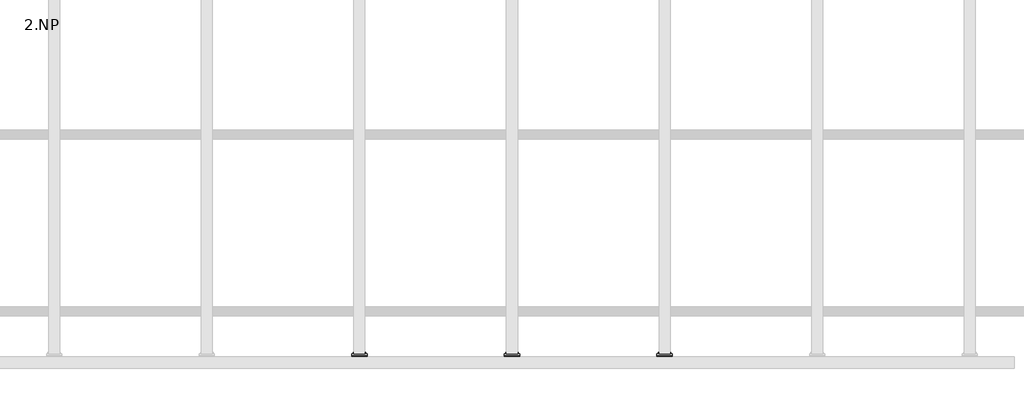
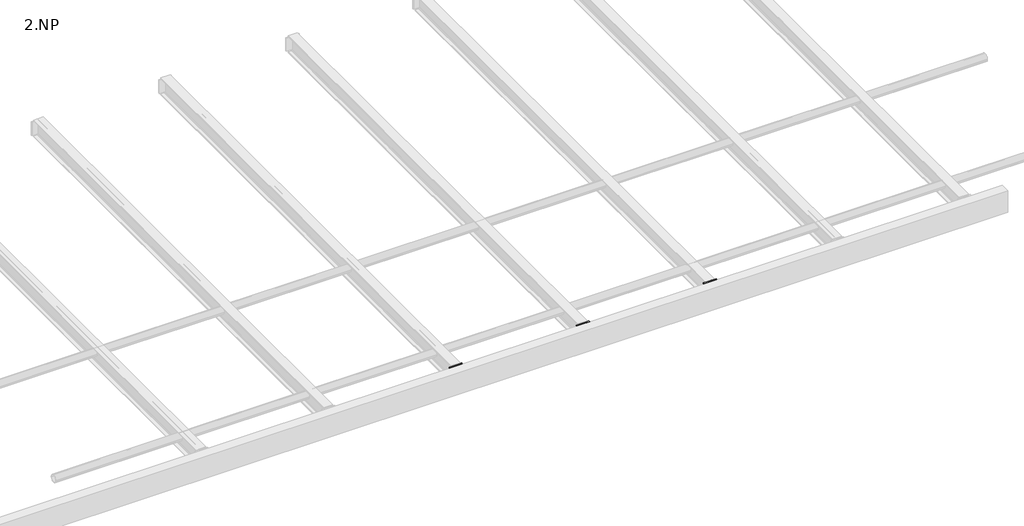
# One storey, part 4 of 18: 12 proxies.
"""IFC4 building model written with IfcOpenShell, lengths in millimetres."""

import ifcopenshell
import ifcopenshell.guid

model = None  # the IFC model being written
_history = None  # IfcOwnerHistory: only IFC2X3 demands one
_inside = {}  # id of a spatial element -> (the spatial element, [elements in it])
_under = {}  # id of a project, library or spatial element -> (it, [spatial elements below it])
_declared = {}  # id of a project -> (the project, [libraries it declares])
_typed = {}  # id of a type object -> (the type object, [elements of that type])
_made_of = {}  # id of a material, layer set ... -> (it, [elements and type objects made of it])


def new_model(schema):
    """Start an empty IFC model of exactly this schema.

    Asked for "IFC4X3", IfcOpenShell would pick the latest addendum, in which some entities
    have other attributes; the version numbers below select the first issue.
    IFC2X3 requires an IfcOwnerHistory on every rooted entity: one is made here for all.
    """
    global model, _history
    if schema == "IFC4X3":
        model = ifcopenshell.file(schema_version=(4, 3, 0, 0))
    else:
        model = ifcopenshell.file(schema=schema)
    _inside.clear()
    _under.clear()
    _declared.clear()
    _typed.clear()
    _made_of.clear()
    _history = None
    if model.schema == "IFC2X3":
        org = make("IfcOrganization", Name="unknown")
        user = make(
            "IfcPersonAndOrganization",
            ThePerson=make("IfcPerson", FamilyName="unknown"),
            TheOrganization=org,
        )
        app = make(
            "IfcApplication",
            ApplicationDeveloper=org,
            Version="unknown",
            ApplicationFullName="unknown",
            ApplicationIdentifier="unknown",
        )
        _history = make(
            "IfcOwnerHistory",
            OwningUser=user,
            OwningApplication=app,
            ChangeAction="ADDED",
            CreationDate=0,
        )
    return model


def make(cls, **values):
    """One entity of the class cls with the attributes given. An attribute that is None is left unset."""
    return model.create_entity(
        cls, **{name: value for name, value in values.items() if value is not None}
    )


def rooted(cls, **values):
    """An entity with a GlobalId (a new one), such as an element, a storey or a relation."""
    return make(cls, GlobalId=ifcopenshell.guid.new(), OwnerHistory=_history, **values)


def si_unit(unit_type, name, prefix=None):
    """IfcSIUnit, for example si_unit("LENGTHUNIT", "METRE", prefix="MILLI")."""
    return make("IfcSIUnit", UnitType=unit_type, Prefix=prefix, Name=name)


def assignment(units):
    """IfcUnitAssignment: the units of a project."""
    return None if units is None else make("IfcUnitAssignment", Units=units)


def point(xyz):
    """IfcCartesianPoint."""
    return None if xyz is None else make("IfcCartesianPoint", Coordinates=xyz)


def direction(xyz):
    """IfcDirection."""
    return None if xyz is None else make("IfcDirection", DirectionRatios=xyz)


def frame(location, z_axis=None, x_axis=None):
    """IfcAxis2Placement3D, a coordinate frame: its origin and axes. An axis left out is left unset."""
    return make(
        "IfcAxis2Placement3D",
        Location=point(location),
        Axis=direction(z_axis),
        RefDirection=direction(x_axis),
    )


def frame_2d(location, x_axis=None):
    """IfcAxis2Placement2D, a coordinate frame in the plane: its origin and x axis."""
    return make(
        "IfcAxis2Placement2D", Location=point(location), RefDirection=direction(x_axis)
    )


def origin():
    """The frame at (0, 0, 0) with its axes left unset."""
    return frame((0.0, 0.0, 0.0))


def place(relative_to, where):
    """IfcLocalPlacement: puts the frame where relative to a parent placement (None: the world)."""
    return make(
        "IfcLocalPlacement", PlacementRelTo=relative_to, RelativePlacement=where
    )


def context(
    kind, dimensions, precision=None, world=None, true_north=None, identifier=None
):
    """IfcGeometricRepresentationContext, for example the 3D "Model" context."""
    return make(
        "IfcGeometricRepresentationContext",
        ContextIdentifier=identifier,
        ContextType=kind,
        CoordinateSpaceDimension=dimensions,
        Precision=precision,
        WorldCoordinateSystem=world,
        TrueNorth=true_north,
    )


def project(units=None, contexts=None):
    """IfcProject with its units and contexts."""
    return rooted(
        "IfcProject",
        Name="project",
        RepresentationContexts=contexts,
        UnitsInContext=assignment(units),
    )


def spatial(cls, under=None, at=None, **own):
    """A site, building, storey or space (cls), placed at a placement, below another one or the project."""
    s = rooted(cls, ObjectPlacement=at, **own)
    if under is not None:
        _under.setdefault(under.id(), (under, []))[1].append(s)
    return s


def polyline(points):
    """IfcPolyline through the points."""
    return make("IfcPolyline", Points=[point(p) for p in points])


def circle_curve(where, radius):
    """IfcCircle in the frame where."""
    return make("IfcCircle", Position=where, Radius=radius)


def trimmed(basis, trim1, trim2, sense, master):
    """IfcTrimmedCurve: the piece of a basis curve between two trims."""
    return make(
        "IfcTrimmedCurve",
        BasisCurve=basis,
        Trim1=trim1,
        Trim2=trim2,
        SenseAgreement=sense,
        MasterRepresentation=master,
    )


def segment(curve, same_sense, transition):
    """IfcCompositeCurveSegment."""
    return make(
        "IfcCompositeCurveSegment",
        Transition=transition,
        SameSense=same_sense,
        ParentCurve=curve,
    )


def composite_curve(segments, self_intersect=None):
    """IfcCompositeCurve: segments joined end to end."""
    return make("IfcCompositeCurve", Segments=segments, SelfIntersect=self_intersect)


def outline(outer, holes=None, kind="AREA"):
    """IfcArbitraryClosedProfileDef: a profile drawn as a closed curve; with holes, ...WithVoids."""
    if holes is None:
        return make("IfcArbitraryClosedProfileDef", ProfileType=kind, OuterCurve=outer)
    return make(
        "IfcArbitraryProfileDefWithVoids",
        ProfileType=kind,
        OuterCurve=outer,
        InnerCurves=holes,
    )


def extrude(swept, where, along, depth):
    """IfcExtrudedAreaSolid: the profile swept, set in the frame where, extruded along a direction by depth."""
    return make(
        "IfcExtrudedAreaSolid",
        SweptArea=swept,
        Position=where,
        ExtrudedDirection=direction(along),
        Depth=depth,
    )


def shape(context_of_items, identifier, shape_type, items):
    """IfcShapeRepresentation: the items that make up one representation, for example the "Body"."""
    return make(
        "IfcShapeRepresentation",
        ContextOfItems=context_of_items,
        RepresentationIdentifier=identifier,
        RepresentationType=shape_type,
        Items=items,
    )


def made_of(thing, what):
    """Note that an element or type object is made of a material, layer set ...; save() writes the relation."""
    if what is not None:
        _made_of.setdefault(what.id(), (what, []))[1].append(thing)
    return thing


def element(
    cls,
    number,
    at=None,
    inside=None,
    cuts=None,
    type_object=None,
    material=None,
    context=None,
    identifier="Body",
    shape_type=None,
    held_by="IfcProductDefinitionShape",
    body=None,
    shapes=None,
    **own,
):
    """One element of the class cls, such as IfcWall. Its Tag is "e" and its number.

    at: its placement. inside: the storey or other place that contains it. cuts: it is an
    opening in that element (IfcRelVoidsElement). A single representation is given by context,
    identifier, shape_type and body (its items); several are given by shapes. held_by: the class
    of the entity that holds the representations. save() writes the other relations.
    """
    e = rooted(cls, Tag="e%d" % number, ObjectPlacement=at, **own)
    if body is not None:
        shapes = [shape(context, identifier, shape_type, body)]
    if shapes is not None:
        e.Representation = make(held_by, Representations=shapes)
    if inside is not None:
        _inside.setdefault(inside.id(), (inside, []))[1].append(e)
    if cuts is not None:
        rooted(
            "IfcRelVoidsElement", RelatingBuildingElement=cuts, RelatedOpeningElement=e
        )
    if type_object is not None:
        _typed.setdefault(type_object.id(), (type_object, []))[1].append(e)
    return made_of(e, material)


def aggregate(whole, parts):
    """IfcRelAggregates: a whole, such as a stair, and the parts it consists of."""
    return rooted("IfcRelAggregates", RelatingObject=whole, RelatedObjects=parts)


def save(model, path):
    """Write the relations noted so far, then the file.

    IfcRelAggregates (storeys below a building ...), IfcRelContainedInSpatialStructure (elements
    in a storey), IfcRelDefinesByType, IfcRelAssociatesMaterial and IfcRelDeclares: one each for
    every whole, place, type object, material and project.
    """
    for whole, parts in _under.values():
        aggregate(whole, parts)
    for where, things in _inside.values():
        rooted(
            "IfcRelContainedInSpatialStructure",
            RelatedElements=things,
            RelatingStructure=where,
        )
    for kind, things in _typed.values():
        rooted("IfcRelDefinesByType", RelatedObjects=things, RelatingType=kind)
    for what, things in _made_of.values():
        rooted("IfcRelAssociatesMaterial", RelatedObjects=things, RelatingMaterial=what)
    for by, libraries in _declared.values():
        rooted("IfcRelDeclares", RelatingContext=by, RelatedDefinitions=libraries)
    model.write(path)


model = new_model("IFC4")

# Units and contexts
model_context = context("Model", 3, world=origin())
ifc_project = project(units=[si_unit("LENGTHUNIT", "METRE", prefix="MILLI")], contexts=[model_context])

# Site, building, storey
site = spatial("IfcSite", under=ifc_project)
building = spatial("IfcBuilding", under=site)
storey = spatial("IfcBuildingStorey", under=building, Name="2.NP", Elevation=3000.0)

# Proxies
placement = place(None, origin())
element("IfcBuildingElementProxy", 1, Name="PLECH", ObjectType="PLECH", at=placement, inside=storey, context=model_context, shape_type="SweptSolid", body=[
    extrude(outline(polyline([(4000.0, -180.0), (4100.0, -180.0), (4100.0, -190.0), (4000.0, -190.0), (4000.0, -180.0)])), frame((0.0, 0.0, 3166.5), z_axis=(0.0, 0.0, 1.0), x_axis=(1.0, 0.0, 0.0)), (0.0, 0.0, 1.0), 127.0),
])
element("IfcBuildingElementProxy", 2, Name="PLECH", ObjectType="PLECH", at=placement, inside=storey, context=model_context, shape_type="SweptSolid", body=[
    extrude(outline(polyline([(5000.0, -180.0), (5100.0, -180.0), (5100.0, -190.0), (5000.0, -190.0), (5000.0, -180.0)])), frame((0.0, 0.0, 3166.5), z_axis=(0.0, 0.0, 1.0), x_axis=(1.0, 0.0, 0.0)), (0.0, 0.0, 1.0), 127.0),
])
element("IfcBuildingElementProxy", 3, Name="PLECH", ObjectType="PLECH", at=placement, inside=storey, context=model_context, shape_type="SweptSolid", body=[
    extrude(outline(polyline([(6000.0, -180.0), (6100.0, -180.0), (6100.0, -190.0), (6000.0, -190.0), (6000.0, -180.0)])), frame((0.0, 0.0, 3166.5), z_axis=(0.0, 0.0, 1.0), x_axis=(1.0, 0.0, 0.0)), (0.0, 0.0, 1.0), 127.0),
])
element("IfcBuildingElementProxy", 4, Name="PLECH", ObjectType="PLECH", at=placement, inside=storey, context=model_context, shape_type="SweptSolid", body=[
    extrude(outline(polyline([(4000.0, -190.0), (4100.0, -190.0), (4100.0, -200.0), (4000.0, -200.0), (4000.0, -190.0)])), frame((0.0, 0.0, 3127.5), z_axis=(0.0, 0.0, 1.0), x_axis=(1.0, 0.0, 0.0)), (0.0, 0.0, 1.0), 166.0000153),
])
element("IfcBuildingElementProxy", 5, Name="PLECH", ObjectType="PLECH", at=placement, inside=storey, context=model_context, shape_type="SweptSolid", body=[
    extrude(outline(composite_curve([segment(polyline([(-200.0, 3289.5), (-200.0, 3130.5), (-249.5, 3130.5)]), True, "CONTINUOUS"), segment(trimmed(circle_curve(frame_2d((-269.5, 3130.5)), 20.0), [point((-249.5, 3130.5))], [point((-269.5, 3150.5))], True, "CARTESIAN"), True, "CONTINUOUS"), segment(polyline([(-269.5, 3150.5), (-269.5, 3269.5)]), True, "CONTINUOUS"), segment(trimmed(circle_curve(frame_2d((-269.5, 3289.5)), 20.0), [point((-269.5, 3269.5))], [point((-249.5, 3289.5))], True, "CARTESIAN"), True, "CONTINUOUS"), segment(polyline([(-249.5, 3289.5), (-200.0, 3289.5)]), True, "CONTINUOUS")], self_intersect=False)), frame((4046.0, 0.0, 0.0), z_axis=(1.0, 0.0, 0.0), x_axis=(0.0, 1.0, 0.0)), (0.0, 0.0, 1.0), 8.0),
])
element("IfcBuildingElementProxy", 6, Name="PLECH", ObjectType="PLECH", at=placement, inside=storey, context=model_context, shape_type="SweptSolid", body=[
    extrude(outline(polyline([(5000.0, -190.0), (5100.0, -190.0), (5100.0, -200.0), (5000.0, -200.0), (5000.0, -190.0)])), frame((0.0, 0.0, 3127.5), z_axis=(0.0, 0.0, 1.0), x_axis=(1.0, 0.0, 0.0)), (0.0, 0.0, 1.0), 166.0000153),
])
element("IfcBuildingElementProxy", 7, Name="PLECH", ObjectType="PLECH", at=placement, inside=storey, context=model_context, shape_type="SweptSolid", body=[
    extrude(outline(composite_curve([segment(polyline([(-200.0, 3289.5), (-200.0, 3130.5), (-249.5, 3130.5)]), True, "CONTINUOUS"), segment(trimmed(circle_curve(frame_2d((-269.5, 3130.5)), 20.0), [point((-249.5, 3130.5))], [point((-269.5, 3150.5))], True, "CARTESIAN"), True, "CONTINUOUS"), segment(polyline([(-269.5, 3150.5), (-269.5, 3269.5)]), True, "CONTINUOUS"), segment(trimmed(circle_curve(frame_2d((-269.5, 3289.5)), 20.0), [point((-269.5, 3269.5))], [point((-249.5, 3289.5))], True, "CARTESIAN"), True, "CONTINUOUS"), segment(polyline([(-249.5, 3289.5), (-200.0, 3289.5)]), True, "CONTINUOUS")], self_intersect=False)), frame((5046.0, 0.0, 0.0), z_axis=(1.0, 0.0, 0.0), x_axis=(0.0, 1.0, 0.0)), (0.0, 0.0, 1.0), 8.0),
])
element("IfcBuildingElementProxy", 8, Name="PLECH", ObjectType="PLECH", at=placement, inside=storey, context=model_context, shape_type="SweptSolid", body=[
    extrude(outline(polyline([(6000.0, -190.0), (6100.0, -190.0), (6100.0, -200.0), (6000.0, -200.0), (6000.0, -190.0)])), frame((0.0, 0.0, 3127.5), z_axis=(0.0, 0.0, 1.0), x_axis=(1.0, 0.0, 0.0)), (0.0, 0.0, 1.0), 166.0000153),
])
element("IfcBuildingElementProxy", 9, Name="PLECH", ObjectType="PLECH", at=placement, inside=storey, context=model_context, shape_type="SweptSolid", body=[
    extrude(outline(composite_curve([segment(polyline([(-200.0, 3289.5), (-200.0, 3130.5), (-249.5, 3130.5)]), True, "CONTINUOUS"), segment(trimmed(circle_curve(frame_2d((-269.5, 3130.5)), 20.0), [point((-249.5, 3130.5))], [point((-269.5, 3150.5))], True, "CARTESIAN"), True, "CONTINUOUS"), segment(polyline([(-269.5, 3150.5), (-269.5, 3269.5)]), True, "CONTINUOUS"), segment(trimmed(circle_curve(frame_2d((-269.5, 3289.5)), 20.0), [point((-269.5, 3269.5))], [point((-249.5, 3289.5))], True, "CARTESIAN"), True, "CONTINUOUS"), segment(polyline([(-249.5, 3289.5), (-200.0, 3289.5)]), True, "CONTINUOUS")], self_intersect=False)), frame((6046.0, 0.0, 0.0), z_axis=(1.0, 0.0, 0.0), x_axis=(0.0, 1.0, 0.0)), (0.0, 0.0, 1.0), 8.0),
])
element("IfcBuildingElementProxy", 10, Name="Bolt assembly", ObjectType="Bolt assembly", at=placement, inside=storey, context=model_context, shape_type="SweptSolid", body=[
    extrude(outline(composite_curve([segment(trimmed(circle_curve(frame_2d((3260.0, 4020.0)), 6.5), [point((3260.0, 4026.5))], [point((3260.0, 4013.5))], False, "CARTESIAN"), True, "CONTINUOUS"), segment(trimmed(circle_curve(frame_2d((3260.0, 4020.0)), 6.5), [point((3260.0, 4013.5))], [point((3260.0, 4026.5))], False, "CARTESIAN"), True, "CONTINUOUS")], self_intersect=False)), frame((0.0, -199.9, 0.0), z_axis=(0.0, 1.0, 0.0), x_axis=(0.0, 0.0, 1.0)), (0.0, 0.0, 1.0), 10.0),
    extrude(outline(polyline([(3260.0, 4030.9696551), (3269.5, 4025.4848276), (3269.5, 4014.5151724), (3260.0, 4009.0303449), (3250.5, 4014.5151724), (3250.5, 4025.4848276), (3260.0, 4030.9696551)])), frame((0.0, -210.0, 0.0), z_axis=(0.0, 1.0, 0.0), x_axis=(0.0, 0.0, 1.0)), (0.0, 0.0, 1.0), 7.5),
    extrude(outline(composite_curve([segment(trimmed(circle_curve(frame_2d((3260.0, 4020.0)), 6.0), [point((3260.0, 4026.0))], [point((3260.0, 4014.0))], False, "CARTESIAN"), True, "CONTINUOUS"), segment(trimmed(circle_curve(frame_2d((3260.0, 4020.0)), 6.0), [point((3260.0, 4014.0))], [point((3260.0, 4026.0))], False, "CARTESIAN"), True, "CONTINUOUS")], self_intersect=False)), frame((0.0, -202.5, 0.0), z_axis=(0.0, 1.0, 0.0), x_axis=(0.0, 0.0, 1.0)), (0.0, 0.0, 1.0), 40.0),
    extrude(outline(composite_curve([segment(trimmed(circle_curve(frame_2d((3260.0, 4020.0)), 12.0), [point((3260.0, 4032.0))], [point((3260.0, 4008.0))], False, "CARTESIAN"), True, "CONTINUOUS"), segment(trimmed(circle_curve(frame_2d((3260.0, 4020.0)), 12.0), [point((3260.0, 4008.0))], [point((3260.0, 4032.0))], False, "CARTESIAN"), True, "CONTINUOUS")], self_intersect=False)), frame((0.0, -202.5, 0.0), z_axis=(0.0, 1.0, 0.0), x_axis=(0.0, 0.0, 1.0)), (0.0, 0.0, 1.0), 2.5),
    extrude(outline(composite_curve([segment(trimmed(circle_curve(frame_2d((3260.0, 4020.0)), 12.0), [point((3260.0, 4032.0))], [point((3260.0, 4008.0))], False, "CARTESIAN"), True, "CONTINUOUS"), segment(trimmed(circle_curve(frame_2d((3260.0, 4020.0)), 12.0), [point((3260.0, 4008.0))], [point((3260.0, 4032.0))], False, "CARTESIAN"), True, "CONTINUOUS")], self_intersect=False)), frame((0.0, -180.0, 0.0), z_axis=(0.0, 1.0, 0.0), x_axis=(0.0, 0.0, 1.0)), (0.0, 0.0, 1.0), 2.5),
    extrude(outline(polyline([(3260.0, 4030.9696551), (3269.5, 4025.4848276), (3269.5, 4014.5151724), (3260.0, 4009.0303449), (3250.5, 4014.5151724), (3250.5, 4025.4848276), (3260.0, 4030.9696551)])), frame((0.0, -177.5, 0.0), z_axis=(0.0, 1.0, 0.0), x_axis=(0.0, 0.0, 1.0)), (0.0, 0.0, 1.0), 10.0),
    extrude(outline(composite_curve([segment(trimmed(circle_curve(frame_2d((3260.0, 4020.0)), 6.5), [point((3260.0, 4026.5))], [point((3260.0, 4013.5))], False, "CARTESIAN"), True, "CONTINUOUS"), segment(trimmed(circle_curve(frame_2d((3260.0, 4020.0)), 6.5), [point((3260.0, 4013.5))], [point((3260.0, 4026.5))], False, "CARTESIAN"), True, "CONTINUOUS")], self_intersect=False)), frame((0.0, -190.1, 0.0), z_axis=(0.0, 1.0, 0.0), x_axis=(0.0, 0.0, 1.0)), (0.0, 0.0, 1.0), 10.1),
    extrude(outline(composite_curve([segment(trimmed(circle_curve(frame_2d((3260.0, 4080.0)), 6.5), [point((3260.0, 4086.5))], [point((3260.0, 4073.5))], False, "CARTESIAN"), True, "CONTINUOUS"), segment(trimmed(circle_curve(frame_2d((3260.0, 4080.0)), 6.5), [point((3260.0, 4073.5))], [point((3260.0, 4086.5))], False, "CARTESIAN"), True, "CONTINUOUS")], self_intersect=False)), frame((0.0, -199.9, 0.0), z_axis=(0.0, 1.0, 0.0), x_axis=(0.0, 0.0, 1.0)), (0.0, 0.0, 1.0), 10.0),
    extrude(outline(polyline([(3260.0, 4090.9696551), (3269.5, 4085.4848276), (3269.5, 4074.5151724), (3260.0, 4069.0303449), (3250.5, 4074.5151724), (3250.5, 4085.4848276), (3260.0, 4090.9696551)])), frame((0.0, -210.0, 0.0), z_axis=(0.0, 1.0, 0.0), x_axis=(0.0, 0.0, 1.0)), (0.0, 0.0, 1.0), 7.5),
    extrude(outline(composite_curve([segment(trimmed(circle_curve(frame_2d((3260.0, 4080.0)), 6.0), [point((3260.0, 4086.0))], [point((3260.0, 4074.0))], False, "CARTESIAN"), True, "CONTINUOUS"), segment(trimmed(circle_curve(frame_2d((3260.0, 4080.0)), 6.0), [point((3260.0, 4074.0))], [point((3260.0, 4086.0))], False, "CARTESIAN"), True, "CONTINUOUS")], self_intersect=False)), frame((0.0, -202.5, 0.0), z_axis=(0.0, 1.0, 0.0), x_axis=(0.0, 0.0, 1.0)), (0.0, 0.0, 1.0), 40.0),
    extrude(outline(composite_curve([segment(trimmed(circle_curve(frame_2d((3260.0, 4080.0)), 12.0), [point((3260.0, 4092.0))], [point((3260.0, 4068.0))], False, "CARTESIAN"), True, "CONTINUOUS"), segment(trimmed(circle_curve(frame_2d((3260.0, 4080.0)), 12.0), [point((3260.0, 4068.0))], [point((3260.0, 4092.0))], False, "CARTESIAN"), True, "CONTINUOUS")], self_intersect=False)), frame((0.0, -202.5, 0.0), z_axis=(0.0, 1.0, 0.0), x_axis=(0.0, 0.0, 1.0)), (0.0, 0.0, 1.0), 2.5),
    extrude(outline(composite_curve([segment(trimmed(circle_curve(frame_2d((3260.0, 4080.0)), 12.0), [point((3260.0, 4092.0))], [point((3260.0, 4068.0))], False, "CARTESIAN"), True, "CONTINUOUS"), segment(trimmed(circle_curve(frame_2d((3260.0, 4080.0)), 12.0), [point((3260.0, 4068.0))], [point((3260.0, 4092.0))], False, "CARTESIAN"), True, "CONTINUOUS")], self_intersect=False)), frame((0.0, -180.0, 0.0), z_axis=(0.0, 1.0, 0.0), x_axis=(0.0, 0.0, 1.0)), (0.0, 0.0, 1.0), 2.5),
    extrude(outline(polyline([(3260.0, 4090.9696551), (3269.5, 4085.4848276), (3269.5, 4074.5151724), (3260.0, 4069.0303449), (3250.5, 4074.5151724), (3250.5, 4085.4848276), (3260.0, 4090.9696551)])), frame((0.0, -177.5, 0.0), z_axis=(0.0, 1.0, 0.0), x_axis=(0.0, 0.0, 1.0)), (0.0, 0.0, 1.0), 10.0),
    extrude(outline(composite_curve([segment(trimmed(circle_curve(frame_2d((3260.0, 4080.0)), 6.5), [point((3260.0, 4086.5))], [point((3260.0, 4073.5))], False, "CARTESIAN"), True, "CONTINUOUS"), segment(trimmed(circle_curve(frame_2d((3260.0, 4080.0)), 6.5), [point((3260.0, 4073.5))], [point((3260.0, 4086.5))], False, "CARTESIAN"), True, "CONTINUOUS")], self_intersect=False)), frame((0.0, -190.1, 0.0), z_axis=(0.0, 1.0, 0.0), x_axis=(0.0, 0.0, 1.0)), (0.0, 0.0, 1.0), 10.1),
    extrude(outline(composite_curve([segment(trimmed(circle_curve(frame_2d((3200.0, 4020.0)), 6.5), [point((3200.0, 4026.5))], [point((3200.0, 4013.5))], False, "CARTESIAN"), True, "CONTINUOUS"), segment(trimmed(circle_curve(frame_2d((3200.0, 4020.0)), 6.5), [point((3200.0, 4013.5))], [point((3200.0, 4026.5))], False, "CARTESIAN"), True, "CONTINUOUS")], self_intersect=False)), frame((0.0, -199.9, 0.0), z_axis=(0.0, 1.0, 0.0), x_axis=(0.0, 0.0, 1.0)), (0.0, 0.0, 1.0), 10.0),
    extrude(outline(polyline([(3200.0, 4030.9696551), (3209.5, 4025.4848276), (3209.5, 4014.5151724), (3200.0, 4009.0303449), (3190.5, 4014.5151724), (3190.5, 4025.4848276), (3200.0, 4030.9696551)])), frame((0.0, -210.0, 0.0), z_axis=(0.0, 1.0, 0.0), x_axis=(0.0, 0.0, 1.0)), (0.0, 0.0, 1.0), 7.5),
    extrude(outline(composite_curve([segment(trimmed(circle_curve(frame_2d((3200.0, 4020.0)), 6.0), [point((3200.0, 4026.0))], [point((3200.0, 4014.0))], False, "CARTESIAN"), True, "CONTINUOUS"), segment(trimmed(circle_curve(frame_2d((3200.0, 4020.0)), 6.0), [point((3200.0, 4014.0))], [point((3200.0, 4026.0))], False, "CARTESIAN"), True, "CONTINUOUS")], self_intersect=False)), frame((0.0, -202.5, 0.0), z_axis=(0.0, 1.0, 0.0), x_axis=(0.0, 0.0, 1.0)), (0.0, 0.0, 1.0), 40.0),
    extrude(outline(composite_curve([segment(trimmed(circle_curve(frame_2d((3200.0, 4020.0)), 12.0), [point((3200.0, 4032.0))], [point((3200.0, 4008.0))], False, "CARTESIAN"), True, "CONTINUOUS"), segment(trimmed(circle_curve(frame_2d((3200.0, 4020.0)), 12.0), [point((3200.0, 4008.0))], [point((3200.0, 4032.0))], False, "CARTESIAN"), True, "CONTINUOUS")], self_intersect=False)), frame((0.0, -202.5, 0.0), z_axis=(0.0, 1.0, 0.0), x_axis=(0.0, 0.0, 1.0)), (0.0, 0.0, 1.0), 2.5),
    extrude(outline(composite_curve([segment(trimmed(circle_curve(frame_2d((3200.0, 4020.0)), 12.0), [point((3200.0, 4032.0))], [point((3200.0, 4008.0))], False, "CARTESIAN"), True, "CONTINUOUS"), segment(trimmed(circle_curve(frame_2d((3200.0, 4020.0)), 12.0), [point((3200.0, 4008.0))], [point((3200.0, 4032.0))], False, "CARTESIAN"), True, "CONTINUOUS")], self_intersect=False)), frame((0.0, -180.0, 0.0), z_axis=(0.0, 1.0, 0.0), x_axis=(0.0, 0.0, 1.0)), (0.0, 0.0, 1.0), 2.5),
    extrude(outline(polyline([(3200.0, 4030.9696551), (3209.5, 4025.4848276), (3209.5, 4014.5151724), (3200.0, 4009.0303449), (3190.5, 4014.5151724), (3190.5, 4025.4848276), (3200.0, 4030.9696551)])), frame((0.0, -177.5, 0.0), z_axis=(0.0, 1.0, 0.0), x_axis=(0.0, 0.0, 1.0)), (0.0, 0.0, 1.0), 10.0),
    extrude(outline(composite_curve([segment(trimmed(circle_curve(frame_2d((3200.0, 4020.0)), 6.5), [point((3200.0, 4026.5))], [point((3200.0, 4013.5))], False, "CARTESIAN"), True, "CONTINUOUS"), segment(trimmed(circle_curve(frame_2d((3200.0, 4020.0)), 6.5), [point((3200.0, 4013.5))], [point((3200.0, 4026.5))], False, "CARTESIAN"), True, "CONTINUOUS")], self_intersect=False)), frame((0.0, -190.1, 0.0), z_axis=(0.0, 1.0, 0.0), x_axis=(0.0, 0.0, 1.0)), (0.0, 0.0, 1.0), 10.1),
    extrude(outline(composite_curve([segment(trimmed(circle_curve(frame_2d((3200.0, 4080.0)), 6.5), [point((3200.0, 4086.5))], [point((3200.0, 4073.5))], False, "CARTESIAN"), True, "CONTINUOUS"), segment(trimmed(circle_curve(frame_2d((3200.0, 4080.0)), 6.5), [point((3200.0, 4073.5))], [point((3200.0, 4086.5))], False, "CARTESIAN"), True, "CONTINUOUS")], self_intersect=False)), frame((0.0, -199.9, 0.0), z_axis=(0.0, 1.0, 0.0), x_axis=(0.0, 0.0, 1.0)), (0.0, 0.0, 1.0), 10.0),
    extrude(outline(polyline([(3200.0, 4090.9696551), (3209.5, 4085.4848276), (3209.5, 4074.5151724), (3200.0, 4069.0303449), (3190.5, 4074.5151724), (3190.5, 4085.4848276), (3200.0, 4090.9696551)])), frame((0.0, -210.0, 0.0), z_axis=(0.0, 1.0, 0.0), x_axis=(0.0, 0.0, 1.0)), (0.0, 0.0, 1.0), 7.5),
    extrude(outline(composite_curve([segment(trimmed(circle_curve(frame_2d((3200.0, 4080.0)), 6.0), [point((3200.0, 4086.0))], [point((3200.0, 4074.0))], False, "CARTESIAN"), True, "CONTINUOUS"), segment(trimmed(circle_curve(frame_2d((3200.0, 4080.0)), 6.0), [point((3200.0, 4074.0))], [point((3200.0, 4086.0))], False, "CARTESIAN"), True, "CONTINUOUS")], self_intersect=False)), frame((0.0, -202.5, 0.0), z_axis=(0.0, 1.0, 0.0), x_axis=(0.0, 0.0, 1.0)), (0.0, 0.0, 1.0), 40.0),
    extrude(outline(composite_curve([segment(trimmed(circle_curve(frame_2d((3200.0, 4080.0)), 12.0), [point((3200.0, 4092.0))], [point((3200.0, 4068.0))], False, "CARTESIAN"), True, "CONTINUOUS"), segment(trimmed(circle_curve(frame_2d((3200.0, 4080.0)), 12.0), [point((3200.0, 4068.0))], [point((3200.0, 4092.0))], False, "CARTESIAN"), True, "CONTINUOUS")], self_intersect=False)), frame((0.0, -202.5, 0.0), z_axis=(0.0, 1.0, 0.0), x_axis=(0.0, 0.0, 1.0)), (0.0, 0.0, 1.0), 2.5),
    extrude(outline(composite_curve([segment(trimmed(circle_curve(frame_2d((3200.0, 4080.0)), 12.0), [point((3200.0, 4092.0))], [point((3200.0, 4068.0))], False, "CARTESIAN"), True, "CONTINUOUS"), segment(trimmed(circle_curve(frame_2d((3200.0, 4080.0)), 12.0), [point((3200.0, 4068.0))], [point((3200.0, 4092.0))], False, "CARTESIAN"), True, "CONTINUOUS")], self_intersect=False)), frame((0.0, -180.0, 0.0), z_axis=(0.0, 1.0, 0.0), x_axis=(0.0, 0.0, 1.0)), (0.0, 0.0, 1.0), 2.5),
    extrude(outline(polyline([(3200.0, 4090.9696551), (3209.5, 4085.4848276), (3209.5, 4074.5151724), (3200.0, 4069.0303449), (3190.5, 4074.5151724), (3190.5, 4085.4848276), (3200.0, 4090.9696551)])), frame((0.0, -177.5, 0.0), z_axis=(0.0, 1.0, 0.0), x_axis=(0.0, 0.0, 1.0)), (0.0, 0.0, 1.0), 10.0),
    extrude(outline(composite_curve([segment(trimmed(circle_curve(frame_2d((3200.0, 4080.0)), 6.5), [point((3200.0, 4086.5))], [point((3200.0, 4073.5))], False, "CARTESIAN"), True, "CONTINUOUS"), segment(trimmed(circle_curve(frame_2d((3200.0, 4080.0)), 6.5), [point((3200.0, 4073.5))], [point((3200.0, 4086.5))], False, "CARTESIAN"), True, "CONTINUOUS")], self_intersect=False)), frame((0.0, -190.1, 0.0), z_axis=(0.0, 1.0, 0.0), x_axis=(0.0, 0.0, 1.0)), (0.0, 0.0, 1.0), 10.1),
])
element("IfcBuildingElementProxy", 11, Name="Bolt assembly", ObjectType="Bolt assembly", at=placement, inside=storey, context=model_context, shape_type="SweptSolid", body=[
    extrude(outline(composite_curve([segment(trimmed(circle_curve(frame_2d((3260.0, 5020.0)), 6.5), [point((3260.0, 5026.5))], [point((3260.0, 5013.5))], False, "CARTESIAN"), True, "CONTINUOUS"), segment(trimmed(circle_curve(frame_2d((3260.0, 5020.0)), 6.5), [point((3260.0, 5013.5))], [point((3260.0, 5026.5))], False, "CARTESIAN"), True, "CONTINUOUS")], self_intersect=False)), frame((0.0, -199.9, 0.0), z_axis=(0.0, 1.0, 0.0), x_axis=(0.0, 0.0, 1.0)), (0.0, 0.0, 1.0), 10.0),
    extrude(outline(polyline([(3260.0, 5030.9696551), (3269.5, 5025.4848276), (3269.5, 5014.5151724), (3260.0, 5009.0303449), (3250.5, 5014.5151724), (3250.5, 5025.4848276), (3260.0, 5030.9696551)])), frame((0.0, -210.0, 0.0), z_axis=(0.0, 1.0, 0.0), x_axis=(0.0, 0.0, 1.0)), (0.0, 0.0, 1.0), 7.5),
    extrude(outline(composite_curve([segment(trimmed(circle_curve(frame_2d((3260.0, 5020.0)), 6.0), [point((3260.0, 5026.0))], [point((3260.0, 5014.0))], False, "CARTESIAN"), True, "CONTINUOUS"), segment(trimmed(circle_curve(frame_2d((3260.0, 5020.0)), 6.0), [point((3260.0, 5014.0))], [point((3260.0, 5026.0))], False, "CARTESIAN"), True, "CONTINUOUS")], self_intersect=False)), frame((0.0, -202.5, 0.0), z_axis=(0.0, 1.0, 0.0), x_axis=(0.0, 0.0, 1.0)), (0.0, 0.0, 1.0), 40.0),
    extrude(outline(composite_curve([segment(trimmed(circle_curve(frame_2d((3260.0, 5020.0)), 12.0), [point((3260.0, 5032.0))], [point((3260.0, 5008.0))], False, "CARTESIAN"), True, "CONTINUOUS"), segment(trimmed(circle_curve(frame_2d((3260.0, 5020.0)), 12.0), [point((3260.0, 5008.0))], [point((3260.0, 5032.0))], False, "CARTESIAN"), True, "CONTINUOUS")], self_intersect=False)), frame((0.0, -202.5, 0.0), z_axis=(0.0, 1.0, 0.0), x_axis=(0.0, 0.0, 1.0)), (0.0, 0.0, 1.0), 2.5),
    extrude(outline(composite_curve([segment(trimmed(circle_curve(frame_2d((3260.0, 5020.0)), 12.0), [point((3260.0, 5032.0))], [point((3260.0, 5008.0))], False, "CARTESIAN"), True, "CONTINUOUS"), segment(trimmed(circle_curve(frame_2d((3260.0, 5020.0)), 12.0), [point((3260.0, 5008.0))], [point((3260.0, 5032.0))], False, "CARTESIAN"), True, "CONTINUOUS")], self_intersect=False)), frame((0.0, -180.0, 0.0), z_axis=(0.0, 1.0, 0.0), x_axis=(0.0, 0.0, 1.0)), (0.0, 0.0, 1.0), 2.5),
    extrude(outline(polyline([(3260.0, 5030.9696551), (3269.5, 5025.4848276), (3269.5, 5014.5151724), (3260.0, 5009.0303449), (3250.5, 5014.5151724), (3250.5, 5025.4848276), (3260.0, 5030.9696551)])), frame((0.0, -177.5, 0.0), z_axis=(0.0, 1.0, 0.0), x_axis=(0.0, 0.0, 1.0)), (0.0, 0.0, 1.0), 10.0),
    extrude(outline(composite_curve([segment(trimmed(circle_curve(frame_2d((3260.0, 5020.0)), 6.5), [point((3260.0, 5026.5))], [point((3260.0, 5013.5))], False, "CARTESIAN"), True, "CONTINUOUS"), segment(trimmed(circle_curve(frame_2d((3260.0, 5020.0)), 6.5), [point((3260.0, 5013.5))], [point((3260.0, 5026.5))], False, "CARTESIAN"), True, "CONTINUOUS")], self_intersect=False)), frame((0.0, -190.1, 0.0), z_axis=(0.0, 1.0, 0.0), x_axis=(0.0, 0.0, 1.0)), (0.0, 0.0, 1.0), 10.1),
    extrude(outline(composite_curve([segment(trimmed(circle_curve(frame_2d((3260.0, 5080.0)), 6.5), [point((3260.0, 5086.5))], [point((3260.0, 5073.5))], False, "CARTESIAN"), True, "CONTINUOUS"), segment(trimmed(circle_curve(frame_2d((3260.0, 5080.0)), 6.5), [point((3260.0, 5073.5))], [point((3260.0, 5086.5))], False, "CARTESIAN"), True, "CONTINUOUS")], self_intersect=False)), frame((0.0, -199.9, 0.0), z_axis=(0.0, 1.0, 0.0), x_axis=(0.0, 0.0, 1.0)), (0.0, 0.0, 1.0), 10.0),
    extrude(outline(polyline([(3260.0, 5090.9696551), (3269.5, 5085.4848276), (3269.5, 5074.5151724), (3260.0, 5069.0303449), (3250.5, 5074.5151724), (3250.5, 5085.4848276), (3260.0, 5090.9696551)])), frame((0.0, -210.0, 0.0), z_axis=(0.0, 1.0, 0.0), x_axis=(0.0, 0.0, 1.0)), (0.0, 0.0, 1.0), 7.5),
    extrude(outline(composite_curve([segment(trimmed(circle_curve(frame_2d((3260.0, 5080.0)), 6.0), [point((3260.0, 5086.0))], [point((3260.0, 5074.0))], False, "CARTESIAN"), True, "CONTINUOUS"), segment(trimmed(circle_curve(frame_2d((3260.0, 5080.0)), 6.0), [point((3260.0, 5074.0))], [point((3260.0, 5086.0))], False, "CARTESIAN"), True, "CONTINUOUS")], self_intersect=False)), frame((0.0, -202.5, 0.0), z_axis=(0.0, 1.0, 0.0), x_axis=(0.0, 0.0, 1.0)), (0.0, 0.0, 1.0), 40.0),
    extrude(outline(composite_curve([segment(trimmed(circle_curve(frame_2d((3260.0, 5080.0)), 12.0), [point((3260.0, 5092.0))], [point((3260.0, 5068.0))], False, "CARTESIAN"), True, "CONTINUOUS"), segment(trimmed(circle_curve(frame_2d((3260.0, 5080.0)), 12.0), [point((3260.0, 5068.0))], [point((3260.0, 5092.0))], False, "CARTESIAN"), True, "CONTINUOUS")], self_intersect=False)), frame((0.0, -202.5, 0.0), z_axis=(0.0, 1.0, 0.0), x_axis=(0.0, 0.0, 1.0)), (0.0, 0.0, 1.0), 2.5),
    extrude(outline(composite_curve([segment(trimmed(circle_curve(frame_2d((3260.0, 5080.0)), 12.0), [point((3260.0, 5092.0))], [point((3260.0, 5068.0))], False, "CARTESIAN"), True, "CONTINUOUS"), segment(trimmed(circle_curve(frame_2d((3260.0, 5080.0)), 12.0), [point((3260.0, 5068.0))], [point((3260.0, 5092.0))], False, "CARTESIAN"), True, "CONTINUOUS")], self_intersect=False)), frame((0.0, -180.0, 0.0), z_axis=(0.0, 1.0, 0.0), x_axis=(0.0, 0.0, 1.0)), (0.0, 0.0, 1.0), 2.5),
    extrude(outline(polyline([(3260.0, 5090.9696551), (3269.5, 5085.4848276), (3269.5, 5074.5151724), (3260.0, 5069.0303449), (3250.5, 5074.5151724), (3250.5, 5085.4848276), (3260.0, 5090.9696551)])), frame((0.0, -177.5, 0.0), z_axis=(0.0, 1.0, 0.0), x_axis=(0.0, 0.0, 1.0)), (0.0, 0.0, 1.0), 10.0),
    extrude(outline(composite_curve([segment(trimmed(circle_curve(frame_2d((3260.0, 5080.0)), 6.5), [point((3260.0, 5086.5))], [point((3260.0, 5073.5))], False, "CARTESIAN"), True, "CONTINUOUS"), segment(trimmed(circle_curve(frame_2d((3260.0, 5080.0)), 6.5), [point((3260.0, 5073.5))], [point((3260.0, 5086.5))], False, "CARTESIAN"), True, "CONTINUOUS")], self_intersect=False)), frame((0.0, -190.1, 0.0), z_axis=(0.0, 1.0, 0.0), x_axis=(0.0, 0.0, 1.0)), (0.0, 0.0, 1.0), 10.1),
    extrude(outline(composite_curve([segment(trimmed(circle_curve(frame_2d((3200.0, 5020.0)), 6.5), [point((3200.0, 5026.5))], [point((3200.0, 5013.5))], False, "CARTESIAN"), True, "CONTINUOUS"), segment(trimmed(circle_curve(frame_2d((3200.0, 5020.0)), 6.5), [point((3200.0, 5013.5))], [point((3200.0, 5026.5))], False, "CARTESIAN"), True, "CONTINUOUS")], self_intersect=False)), frame((0.0, -199.9, 0.0), z_axis=(0.0, 1.0, 0.0), x_axis=(0.0, 0.0, 1.0)), (0.0, 0.0, 1.0), 10.0),
    extrude(outline(polyline([(3200.0, 5030.9696551), (3209.5, 5025.4848276), (3209.5, 5014.5151724), (3200.0, 5009.0303449), (3190.5, 5014.5151724), (3190.5, 5025.4848276), (3200.0, 5030.9696551)])), frame((0.0, -210.0, 0.0), z_axis=(0.0, 1.0, 0.0), x_axis=(0.0, 0.0, 1.0)), (0.0, 0.0, 1.0), 7.5),
    extrude(outline(composite_curve([segment(trimmed(circle_curve(frame_2d((3200.0, 5020.0)), 6.0), [point((3200.0, 5026.0))], [point((3200.0, 5014.0))], False, "CARTESIAN"), True, "CONTINUOUS"), segment(trimmed(circle_curve(frame_2d((3200.0, 5020.0)), 6.0), [point((3200.0, 5014.0))], [point((3200.0, 5026.0))], False, "CARTESIAN"), True, "CONTINUOUS")], self_intersect=False)), frame((0.0, -202.5, 0.0), z_axis=(0.0, 1.0, 0.0), x_axis=(0.0, 0.0, 1.0)), (0.0, 0.0, 1.0), 40.0),
    extrude(outline(composite_curve([segment(trimmed(circle_curve(frame_2d((3200.0, 5020.0)), 12.0), [point((3200.0, 5032.0))], [point((3200.0, 5008.0))], False, "CARTESIAN"), True, "CONTINUOUS"), segment(trimmed(circle_curve(frame_2d((3200.0, 5020.0)), 12.0), [point((3200.0, 5008.0))], [point((3200.0, 5032.0))], False, "CARTESIAN"), True, "CONTINUOUS")], self_intersect=False)), frame((0.0, -202.5, 0.0), z_axis=(0.0, 1.0, 0.0), x_axis=(0.0, 0.0, 1.0)), (0.0, 0.0, 1.0), 2.5),
    extrude(outline(composite_curve([segment(trimmed(circle_curve(frame_2d((3200.0, 5020.0)), 12.0), [point((3200.0, 5032.0))], [point((3200.0, 5008.0))], False, "CARTESIAN"), True, "CONTINUOUS"), segment(trimmed(circle_curve(frame_2d((3200.0, 5020.0)), 12.0), [point((3200.0, 5008.0))], [point((3200.0, 5032.0))], False, "CARTESIAN"), True, "CONTINUOUS")], self_intersect=False)), frame((0.0, -180.0, 0.0), z_axis=(0.0, 1.0, 0.0), x_axis=(0.0, 0.0, 1.0)), (0.0, 0.0, 1.0), 2.5),
    extrude(outline(polyline([(3200.0, 5030.9696551), (3209.5, 5025.4848276), (3209.5, 5014.5151724), (3200.0, 5009.0303449), (3190.5, 5014.5151724), (3190.5, 5025.4848276), (3200.0, 5030.9696551)])), frame((0.0, -177.5, 0.0), z_axis=(0.0, 1.0, 0.0), x_axis=(0.0, 0.0, 1.0)), (0.0, 0.0, 1.0), 10.0),
    extrude(outline(composite_curve([segment(trimmed(circle_curve(frame_2d((3200.0, 5020.0)), 6.5), [point((3200.0, 5026.5))], [point((3200.0, 5013.5))], False, "CARTESIAN"), True, "CONTINUOUS"), segment(trimmed(circle_curve(frame_2d((3200.0, 5020.0)), 6.5), [point((3200.0, 5013.5))], [point((3200.0, 5026.5))], False, "CARTESIAN"), True, "CONTINUOUS")], self_intersect=False)), frame((0.0, -190.1, 0.0), z_axis=(0.0, 1.0, 0.0), x_axis=(0.0, 0.0, 1.0)), (0.0, 0.0, 1.0), 10.1),
    extrude(outline(composite_curve([segment(trimmed(circle_curve(frame_2d((3200.0, 5080.0)), 6.5), [point((3200.0, 5086.5))], [point((3200.0, 5073.5))], False, "CARTESIAN"), True, "CONTINUOUS"), segment(trimmed(circle_curve(frame_2d((3200.0, 5080.0)), 6.5), [point((3200.0, 5073.5))], [point((3200.0, 5086.5))], False, "CARTESIAN"), True, "CONTINUOUS")], self_intersect=False)), frame((0.0, -199.9, 0.0), z_axis=(0.0, 1.0, 0.0), x_axis=(0.0, 0.0, 1.0)), (0.0, 0.0, 1.0), 10.0),
    extrude(outline(polyline([(3200.0, 5090.9696551), (3209.5, 5085.4848276), (3209.5, 5074.5151724), (3200.0, 5069.0303449), (3190.5, 5074.5151724), (3190.5, 5085.4848276), (3200.0, 5090.9696551)])), frame((0.0, -210.0, 0.0), z_axis=(0.0, 1.0, 0.0), x_axis=(0.0, 0.0, 1.0)), (0.0, 0.0, 1.0), 7.5),
    extrude(outline(composite_curve([segment(trimmed(circle_curve(frame_2d((3200.0, 5080.0)), 6.0), [point((3200.0, 5086.0))], [point((3200.0, 5074.0))], False, "CARTESIAN"), True, "CONTINUOUS"), segment(trimmed(circle_curve(frame_2d((3200.0, 5080.0)), 6.0), [point((3200.0, 5074.0))], [point((3200.0, 5086.0))], False, "CARTESIAN"), True, "CONTINUOUS")], self_intersect=False)), frame((0.0, -202.5, 0.0), z_axis=(0.0, 1.0, 0.0), x_axis=(0.0, 0.0, 1.0)), (0.0, 0.0, 1.0), 40.0),
    extrude(outline(composite_curve([segment(trimmed(circle_curve(frame_2d((3200.0, 5080.0)), 12.0), [point((3200.0, 5092.0))], [point((3200.0, 5068.0))], False, "CARTESIAN"), True, "CONTINUOUS"), segment(trimmed(circle_curve(frame_2d((3200.0, 5080.0)), 12.0), [point((3200.0, 5068.0))], [point((3200.0, 5092.0))], False, "CARTESIAN"), True, "CONTINUOUS")], self_intersect=False)), frame((0.0, -202.5, 0.0), z_axis=(0.0, 1.0, 0.0), x_axis=(0.0, 0.0, 1.0)), (0.0, 0.0, 1.0), 2.5),
    extrude(outline(composite_curve([segment(trimmed(circle_curve(frame_2d((3200.0, 5080.0)), 12.0), [point((3200.0, 5092.0))], [point((3200.0, 5068.0))], False, "CARTESIAN"), True, "CONTINUOUS"), segment(trimmed(circle_curve(frame_2d((3200.0, 5080.0)), 12.0), [point((3200.0, 5068.0))], [point((3200.0, 5092.0))], False, "CARTESIAN"), True, "CONTINUOUS")], self_intersect=False)), frame((0.0, -180.0, 0.0), z_axis=(0.0, 1.0, 0.0), x_axis=(0.0, 0.0, 1.0)), (0.0, 0.0, 1.0), 2.5),
    extrude(outline(polyline([(3200.0, 5090.9696551), (3209.5, 5085.4848276), (3209.5, 5074.5151724), (3200.0, 5069.0303449), (3190.5, 5074.5151724), (3190.5, 5085.4848276), (3200.0, 5090.9696551)])), frame((0.0, -177.5, 0.0), z_axis=(0.0, 1.0, 0.0), x_axis=(0.0, 0.0, 1.0)), (0.0, 0.0, 1.0), 10.0),
    extrude(outline(composite_curve([segment(trimmed(circle_curve(frame_2d((3200.0, 5080.0)), 6.5), [point((3200.0, 5086.5))], [point((3200.0, 5073.5))], False, "CARTESIAN"), True, "CONTINUOUS"), segment(trimmed(circle_curve(frame_2d((3200.0, 5080.0)), 6.5), [point((3200.0, 5073.5))], [point((3200.0, 5086.5))], False, "CARTESIAN"), True, "CONTINUOUS")], self_intersect=False)), frame((0.0, -190.1, 0.0), z_axis=(0.0, 1.0, 0.0), x_axis=(0.0, 0.0, 1.0)), (0.0, 0.0, 1.0), 10.1),
])
element("IfcBuildingElementProxy", 12, Name="Bolt assembly", ObjectType="Bolt assembly", at=placement, inside=storey, context=model_context, shape_type="SweptSolid", body=[
    extrude(outline(composite_curve([segment(trimmed(circle_curve(frame_2d((3260.0, 6020.0)), 6.5), [point((3260.0, 6026.5))], [point((3260.0, 6013.5))], False, "CARTESIAN"), True, "CONTINUOUS"), segment(trimmed(circle_curve(frame_2d((3260.0, 6020.0)), 6.5), [point((3260.0, 6013.5))], [point((3260.0, 6026.5))], False, "CARTESIAN"), True, "CONTINUOUS")], self_intersect=False)), frame((0.0, -199.9, 0.0), z_axis=(0.0, 1.0, 0.0), x_axis=(0.0, 0.0, 1.0)), (0.0, 0.0, 1.0), 10.0),
    extrude(outline(polyline([(3260.0, 6030.9696551), (3269.5, 6025.4848276), (3269.5, 6014.5151724), (3260.0, 6009.0303449), (3250.5, 6014.5151724), (3250.5, 6025.4848276), (3260.0, 6030.9696551)])), frame((0.0, -210.0, 0.0), z_axis=(0.0, 1.0, 0.0), x_axis=(0.0, 0.0, 1.0)), (0.0, 0.0, 1.0), 7.5),
    extrude(outline(composite_curve([segment(trimmed(circle_curve(frame_2d((3260.0, 6020.0)), 6.0), [point((3260.0, 6026.0))], [point((3260.0, 6014.0))], False, "CARTESIAN"), True, "CONTINUOUS"), segment(trimmed(circle_curve(frame_2d((3260.0, 6020.0)), 6.0), [point((3260.0, 6014.0))], [point((3260.0, 6026.0))], False, "CARTESIAN"), True, "CONTINUOUS")], self_intersect=False)), frame((0.0, -202.5, 0.0), z_axis=(0.0, 1.0, 0.0), x_axis=(0.0, 0.0, 1.0)), (0.0, 0.0, 1.0), 40.0),
    extrude(outline(composite_curve([segment(trimmed(circle_curve(frame_2d((3260.0, 6020.0)), 12.0), [point((3260.0, 6032.0))], [point((3260.0, 6008.0))], False, "CARTESIAN"), True, "CONTINUOUS"), segment(trimmed(circle_curve(frame_2d((3260.0, 6020.0)), 12.0), [point((3260.0, 6008.0))], [point((3260.0, 6032.0))], False, "CARTESIAN"), True, "CONTINUOUS")], self_intersect=False)), frame((0.0, -202.5, 0.0), z_axis=(0.0, 1.0, 0.0), x_axis=(0.0, 0.0, 1.0)), (0.0, 0.0, 1.0), 2.5),
    extrude(outline(composite_curve([segment(trimmed(circle_curve(frame_2d((3260.0, 6020.0)), 12.0), [point((3260.0, 6032.0))], [point((3260.0, 6008.0))], False, "CARTESIAN"), True, "CONTINUOUS"), segment(trimmed(circle_curve(frame_2d((3260.0, 6020.0)), 12.0), [point((3260.0, 6008.0))], [point((3260.0, 6032.0))], False, "CARTESIAN"), True, "CONTINUOUS")], self_intersect=False)), frame((0.0, -180.0, 0.0), z_axis=(0.0, 1.0, 0.0), x_axis=(0.0, 0.0, 1.0)), (0.0, 0.0, 1.0), 2.5),
    extrude(outline(polyline([(3260.0, 6030.9696551), (3269.5, 6025.4848276), (3269.5, 6014.5151724), (3260.0, 6009.0303449), (3250.5, 6014.5151724), (3250.5, 6025.4848276), (3260.0, 6030.9696551)])), frame((0.0, -177.5, 0.0), z_axis=(0.0, 1.0, 0.0), x_axis=(0.0, 0.0, 1.0)), (0.0, 0.0, 1.0), 10.0),
    extrude(outline(composite_curve([segment(trimmed(circle_curve(frame_2d((3260.0, 6020.0)), 6.5), [point((3260.0, 6026.5))], [point((3260.0, 6013.5))], False, "CARTESIAN"), True, "CONTINUOUS"), segment(trimmed(circle_curve(frame_2d((3260.0, 6020.0)), 6.5), [point((3260.0, 6013.5))], [point((3260.0, 6026.5))], False, "CARTESIAN"), True, "CONTINUOUS")], self_intersect=False)), frame((0.0, -190.1, 0.0), z_axis=(0.0, 1.0, 0.0), x_axis=(0.0, 0.0, 1.0)), (0.0, 0.0, 1.0), 10.1),
    extrude(outline(composite_curve([segment(trimmed(circle_curve(frame_2d((3260.0, 6080.0)), 6.5), [point((3260.0, 6086.5))], [point((3260.0, 6073.5))], False, "CARTESIAN"), True, "CONTINUOUS"), segment(trimmed(circle_curve(frame_2d((3260.0, 6080.0)), 6.5), [point((3260.0, 6073.5))], [point((3260.0, 6086.5))], False, "CARTESIAN"), True, "CONTINUOUS")], self_intersect=False)), frame((0.0, -199.9, 0.0), z_axis=(0.0, 1.0, 0.0), x_axis=(0.0, 0.0, 1.0)), (0.0, 0.0, 1.0), 10.0),
    extrude(outline(polyline([(3260.0, 6090.9696551), (3269.5, 6085.4848276), (3269.5, 6074.5151724), (3260.0, 6069.0303449), (3250.5, 6074.5151724), (3250.5, 6085.4848276), (3260.0, 6090.9696551)])), frame((0.0, -210.0, 0.0), z_axis=(0.0, 1.0, 0.0), x_axis=(0.0, 0.0, 1.0)), (0.0, 0.0, 1.0), 7.5),
    extrude(outline(composite_curve([segment(trimmed(circle_curve(frame_2d((3260.0, 6080.0)), 6.0), [point((3260.0, 6086.0))], [point((3260.0, 6074.0))], False, "CARTESIAN"), True, "CONTINUOUS"), segment(trimmed(circle_curve(frame_2d((3260.0, 6080.0)), 6.0), [point((3260.0, 6074.0))], [point((3260.0, 6086.0))], False, "CARTESIAN"), True, "CONTINUOUS")], self_intersect=False)), frame((0.0, -202.5, 0.0), z_axis=(0.0, 1.0, 0.0), x_axis=(0.0, 0.0, 1.0)), (0.0, 0.0, 1.0), 40.0),
    extrude(outline(composite_curve([segment(trimmed(circle_curve(frame_2d((3260.0, 6080.0)), 12.0), [point((3260.0, 6092.0))], [point((3260.0, 6068.0))], False, "CARTESIAN"), True, "CONTINUOUS"), segment(trimmed(circle_curve(frame_2d((3260.0, 6080.0)), 12.0), [point((3260.0, 6068.0))], [point((3260.0, 6092.0))], False, "CARTESIAN"), True, "CONTINUOUS")], self_intersect=False)), frame((0.0, -202.5, 0.0), z_axis=(0.0, 1.0, 0.0), x_axis=(0.0, 0.0, 1.0)), (0.0, 0.0, 1.0), 2.5),
    extrude(outline(composite_curve([segment(trimmed(circle_curve(frame_2d((3260.0, 6080.0)), 12.0), [point((3260.0, 6092.0))], [point((3260.0, 6068.0))], False, "CARTESIAN"), True, "CONTINUOUS"), segment(trimmed(circle_curve(frame_2d((3260.0, 6080.0)), 12.0), [point((3260.0, 6068.0))], [point((3260.0, 6092.0))], False, "CARTESIAN"), True, "CONTINUOUS")], self_intersect=False)), frame((0.0, -180.0, 0.0), z_axis=(0.0, 1.0, 0.0), x_axis=(0.0, 0.0, 1.0)), (0.0, 0.0, 1.0), 2.5),
    extrude(outline(polyline([(3260.0, 6090.9696551), (3269.5, 6085.4848276), (3269.5, 6074.5151724), (3260.0, 6069.0303449), (3250.5, 6074.5151724), (3250.5, 6085.4848276), (3260.0, 6090.9696551)])), frame((0.0, -177.5, 0.0), z_axis=(0.0, 1.0, 0.0), x_axis=(0.0, 0.0, 1.0)), (0.0, 0.0, 1.0), 10.0),
    extrude(outline(composite_curve([segment(trimmed(circle_curve(frame_2d((3260.0, 6080.0)), 6.5), [point((3260.0, 6086.5))], [point((3260.0, 6073.5))], False, "CARTESIAN"), True, "CONTINUOUS"), segment(trimmed(circle_curve(frame_2d((3260.0, 6080.0)), 6.5), [point((3260.0, 6073.5))], [point((3260.0, 6086.5))], False, "CARTESIAN"), True, "CONTINUOUS")], self_intersect=False)), frame((0.0, -190.1, 0.0), z_axis=(0.0, 1.0, 0.0), x_axis=(0.0, 0.0, 1.0)), (0.0, 0.0, 1.0), 10.1),
    extrude(outline(composite_curve([segment(trimmed(circle_curve(frame_2d((3200.0, 6020.0)), 6.5), [point((3200.0, 6026.5))], [point((3200.0, 6013.5))], False, "CARTESIAN"), True, "CONTINUOUS"), segment(trimmed(circle_curve(frame_2d((3200.0, 6020.0)), 6.5), [point((3200.0, 6013.5))], [point((3200.0, 6026.5))], False, "CARTESIAN"), True, "CONTINUOUS")], self_intersect=False)), frame((0.0, -199.9, 0.0), z_axis=(0.0, 1.0, 0.0), x_axis=(0.0, 0.0, 1.0)), (0.0, 0.0, 1.0), 10.0),
    extrude(outline(polyline([(3200.0, 6030.9696551), (3209.5, 6025.4848276), (3209.5, 6014.5151724), (3200.0, 6009.0303449), (3190.5, 6014.5151724), (3190.5, 6025.4848276), (3200.0, 6030.9696551)])), frame((0.0, -210.0, 0.0), z_axis=(0.0, 1.0, 0.0), x_axis=(0.0, 0.0, 1.0)), (0.0, 0.0, 1.0), 7.5),
    extrude(outline(composite_curve([segment(trimmed(circle_curve(frame_2d((3200.0, 6020.0)), 6.0), [point((3200.0, 6026.0))], [point((3200.0, 6014.0))], False, "CARTESIAN"), True, "CONTINUOUS"), segment(trimmed(circle_curve(frame_2d((3200.0, 6020.0)), 6.0), [point((3200.0, 6014.0))], [point((3200.0, 6026.0))], False, "CARTESIAN"), True, "CONTINUOUS")], self_intersect=False)), frame((0.0, -202.5, 0.0), z_axis=(0.0, 1.0, 0.0), x_axis=(0.0, 0.0, 1.0)), (0.0, 0.0, 1.0), 40.0),
    extrude(outline(composite_curve([segment(trimmed(circle_curve(frame_2d((3200.0, 6020.0)), 12.0), [point((3200.0, 6032.0))], [point((3200.0, 6008.0))], False, "CARTESIAN"), True, "CONTINUOUS"), segment(trimmed(circle_curve(frame_2d((3200.0, 6020.0)), 12.0), [point((3200.0, 6008.0))], [point((3200.0, 6032.0))], False, "CARTESIAN"), True, "CONTINUOUS")], self_intersect=False)), frame((0.0, -202.5, 0.0), z_axis=(0.0, 1.0, 0.0), x_axis=(0.0, 0.0, 1.0)), (0.0, 0.0, 1.0), 2.5),
    extrude(outline(composite_curve([segment(trimmed(circle_curve(frame_2d((3200.0, 6020.0)), 12.0), [point((3200.0, 6032.0))], [point((3200.0, 6008.0))], False, "CARTESIAN"), True, "CONTINUOUS"), segment(trimmed(circle_curve(frame_2d((3200.0, 6020.0)), 12.0), [point((3200.0, 6008.0))], [point((3200.0, 6032.0))], False, "CARTESIAN"), True, "CONTINUOUS")], self_intersect=False)), frame((0.0, -180.0, 0.0), z_axis=(0.0, 1.0, 0.0), x_axis=(0.0, 0.0, 1.0)), (0.0, 0.0, 1.0), 2.5),
    extrude(outline(polyline([(3200.0, 6030.9696551), (3209.5, 6025.4848276), (3209.5, 6014.5151724), (3200.0, 6009.0303449), (3190.5, 6014.5151724), (3190.5, 6025.4848276), (3200.0, 6030.9696551)])), frame((0.0, -177.5, 0.0), z_axis=(0.0, 1.0, 0.0), x_axis=(0.0, 0.0, 1.0)), (0.0, 0.0, 1.0), 10.0),
    extrude(outline(composite_curve([segment(trimmed(circle_curve(frame_2d((3200.0, 6020.0)), 6.5), [point((3200.0, 6026.5))], [point((3200.0, 6013.5))], False, "CARTESIAN"), True, "CONTINUOUS"), segment(trimmed(circle_curve(frame_2d((3200.0, 6020.0)), 6.5), [point((3200.0, 6013.5))], [point((3200.0, 6026.5))], False, "CARTESIAN"), True, "CONTINUOUS")], self_intersect=False)), frame((0.0, -190.1, 0.0), z_axis=(0.0, 1.0, 0.0), x_axis=(0.0, 0.0, 1.0)), (0.0, 0.0, 1.0), 10.1),
    extrude(outline(composite_curve([segment(trimmed(circle_curve(frame_2d((3200.0, 6080.0)), 6.5), [point((3200.0, 6086.5))], [point((3200.0, 6073.5))], False, "CARTESIAN"), True, "CONTINUOUS"), segment(trimmed(circle_curve(frame_2d((3200.0, 6080.0)), 6.5), [point((3200.0, 6073.5))], [point((3200.0, 6086.5))], False, "CARTESIAN"), True, "CONTINUOUS")], self_intersect=False)), frame((0.0, -199.9, 0.0), z_axis=(0.0, 1.0, 0.0), x_axis=(0.0, 0.0, 1.0)), (0.0, 0.0, 1.0), 10.0),
    extrude(outline(polyline([(3200.0, 6090.9696551), (3209.5, 6085.4848276), (3209.5, 6074.5151724), (3200.0, 6069.0303449), (3190.5, 6074.5151724), (3190.5, 6085.4848276), (3200.0, 6090.9696551)])), frame((0.0, -210.0, 0.0), z_axis=(0.0, 1.0, 0.0), x_axis=(0.0, 0.0, 1.0)), (0.0, 0.0, 1.0), 7.5),
    extrude(outline(composite_curve([segment(trimmed(circle_curve(frame_2d((3200.0, 6080.0)), 6.0), [point((3200.0, 6086.0))], [point((3200.0, 6074.0))], False, "CARTESIAN"), True, "CONTINUOUS"), segment(trimmed(circle_curve(frame_2d((3200.0, 6080.0)), 6.0), [point((3200.0, 6074.0))], [point((3200.0, 6086.0))], False, "CARTESIAN"), True, "CONTINUOUS")], self_intersect=False)), frame((0.0, -202.5, 0.0), z_axis=(0.0, 1.0, 0.0), x_axis=(0.0, 0.0, 1.0)), (0.0, 0.0, 1.0), 40.0),
    extrude(outline(composite_curve([segment(trimmed(circle_curve(frame_2d((3200.0, 6080.0)), 12.0), [point((3200.0, 6092.0))], [point((3200.0, 6068.0))], False, "CARTESIAN"), True, "CONTINUOUS"), segment(trimmed(circle_curve(frame_2d((3200.0, 6080.0)), 12.0), [point((3200.0, 6068.0))], [point((3200.0, 6092.0))], False, "CARTESIAN"), True, "CONTINUOUS")], self_intersect=False)), frame((0.0, -202.5, 0.0), z_axis=(0.0, 1.0, 0.0), x_axis=(0.0, 0.0, 1.0)), (0.0, 0.0, 1.0), 2.5),
    extrude(outline(composite_curve([segment(trimmed(circle_curve(frame_2d((3200.0, 6080.0)), 12.0), [point((3200.0, 6092.0))], [point((3200.0, 6068.0))], False, "CARTESIAN"), True, "CONTINUOUS"), segment(trimmed(circle_curve(frame_2d((3200.0, 6080.0)), 12.0), [point((3200.0, 6068.0))], [point((3200.0, 6092.0))], False, "CARTESIAN"), True, "CONTINUOUS")], self_intersect=False)), frame((0.0, -180.0, 0.0), z_axis=(0.0, 1.0, 0.0), x_axis=(0.0, 0.0, 1.0)), (0.0, 0.0, 1.0), 2.5),
    extrude(outline(polyline([(3200.0, 6090.9696551), (3209.5, 6085.4848276), (3209.5, 6074.5151724), (3200.0, 6069.0303449), (3190.5, 6074.5151724), (3190.5, 6085.4848276), (3200.0, 6090.9696551)])), frame((0.0, -177.5, 0.0), z_axis=(0.0, 1.0, 0.0), x_axis=(0.0, 0.0, 1.0)), (0.0, 0.0, 1.0), 10.0),
    extrude(outline(composite_curve([segment(trimmed(circle_curve(frame_2d((3200.0, 6080.0)), 6.5), [point((3200.0, 6086.5))], [point((3200.0, 6073.5))], False, "CARTESIAN"), True, "CONTINUOUS"), segment(trimmed(circle_curve(frame_2d((3200.0, 6080.0)), 6.5), [point((3200.0, 6073.5))], [point((3200.0, 6086.5))], False, "CARTESIAN"), True, "CONTINUOUS")], self_intersect=False)), frame((0.0, -190.1, 0.0), z_axis=(0.0, 1.0, 0.0), x_axis=(0.0, 0.0, 1.0)), (0.0, 0.0, 1.0), 10.1),
])

save(model, "model.ifc")
